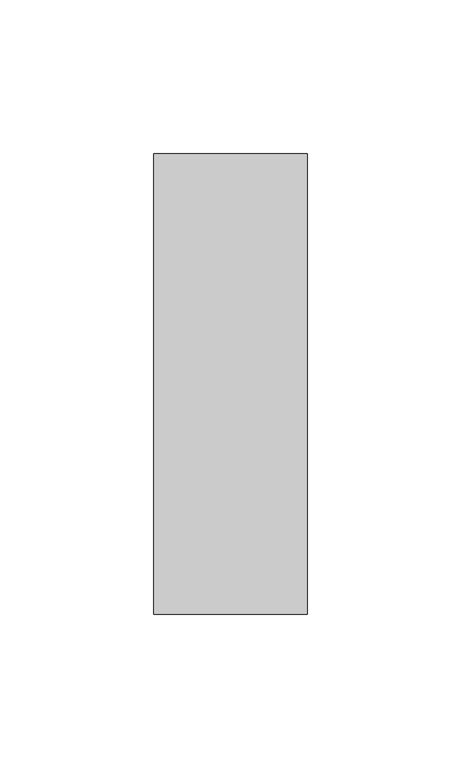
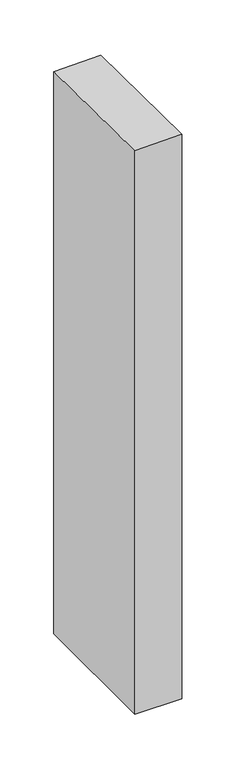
"""IFC4 building model written with IfcOpenShell, lengths in millimetres: member geometry, Прямоугольный импост : 50 x 150 мм."""

import ifcopenshell
import ifcopenshell.guid

model = None  # the IFC model being written
_history = None  # IfcOwnerHistory: only IFC2X3 demands one
_inside = {}  # id of a spatial element -> (the spatial element, [elements in it])
_under = {}  # id of a project, library or spatial element -> (it, [spatial elements below it])
_declared = {}  # id of a project -> (the project, [libraries it declares])
_typed = {}  # id of a type object -> (the type object, [elements of that type])
_made_of = {}  # id of a material, layer set ... -> (it, [elements and type objects made of it])


def new_model(schema):
    """Start an empty IFC model of exactly this schema.

    Asked for "IFC4X3", IfcOpenShell would pick the latest addendum, in which some entities
    have other attributes; the version numbers below select the first issue.
    IFC2X3 requires an IfcOwnerHistory on every rooted entity: one is made here for all.
    """
    global model, _history
    if schema == "IFC4X3":
        model = ifcopenshell.file(schema_version=(4, 3, 0, 0))
    else:
        model = ifcopenshell.file(schema=schema)
    _inside.clear()
    _under.clear()
    _declared.clear()
    _typed.clear()
    _made_of.clear()
    _history = None
    if model.schema == "IFC2X3":
        org = make("IfcOrganization", Name="unknown")
        user = make(
            "IfcPersonAndOrganization",
            ThePerson=make("IfcPerson", FamilyName="unknown"),
            TheOrganization=org,
        )
        app = make(
            "IfcApplication",
            ApplicationDeveloper=org,
            Version="unknown",
            ApplicationFullName="unknown",
            ApplicationIdentifier="unknown",
        )
        _history = make(
            "IfcOwnerHistory",
            OwningUser=user,
            OwningApplication=app,
            ChangeAction="ADDED",
            CreationDate=0,
        )
    return model


def make(cls, **values):
    """One entity of the class cls with the attributes given. An attribute that is None is left unset."""
    return model.create_entity(
        cls, **{name: value for name, value in values.items() if value is not None}
    )


def rooted(cls, **values):
    """An entity with a GlobalId (a new one), such as an element, a storey or a relation."""
    return make(cls, GlobalId=ifcopenshell.guid.new(), OwnerHistory=_history, **values)


def si_unit(unit_type, name, prefix=None):
    """IfcSIUnit, for example si_unit("LENGTHUNIT", "METRE", prefix="MILLI")."""
    return make("IfcSIUnit", UnitType=unit_type, Prefix=prefix, Name=name)


def assignment(units):
    """IfcUnitAssignment: the units of a project."""
    return None if units is None else make("IfcUnitAssignment", Units=units)


def point(xyz):
    """IfcCartesianPoint."""
    return None if xyz is None else make("IfcCartesianPoint", Coordinates=xyz)


def direction(xyz):
    """IfcDirection."""
    return None if xyz is None else make("IfcDirection", DirectionRatios=xyz)


def frame(location, z_axis=None, x_axis=None):
    """IfcAxis2Placement3D, a coordinate frame: its origin and axes. An axis left out is left unset."""
    return make(
        "IfcAxis2Placement3D",
        Location=point(location),
        Axis=direction(z_axis),
        RefDirection=direction(x_axis),
    )


def origin():
    """The frame at (0, 0, 0) with its axes left unset."""
    return frame((0.0, 0.0, 0.0))


def place(relative_to, where):
    """IfcLocalPlacement: puts the frame where relative to a parent placement (None: the world)."""
    return make(
        "IfcLocalPlacement", PlacementRelTo=relative_to, RelativePlacement=where
    )


def context(
    kind, dimensions, precision=None, world=None, true_north=None, identifier=None
):
    """IfcGeometricRepresentationContext, for example the 3D "Model" context."""
    return make(
        "IfcGeometricRepresentationContext",
        ContextIdentifier=identifier,
        ContextType=kind,
        CoordinateSpaceDimension=dimensions,
        Precision=precision,
        WorldCoordinateSystem=world,
        TrueNorth=true_north,
    )


def project(units=None, contexts=None):
    """IfcProject with its units and contexts."""
    return rooted(
        "IfcProject",
        Name="project",
        RepresentationContexts=contexts,
        UnitsInContext=assignment(units),
    )


def spatial(cls, under=None, at=None, **own):
    """A site, building, storey or space (cls), placed at a placement, below another one or the project."""
    s = rooted(cls, ObjectPlacement=at, **own)
    if under is not None:
        _under.setdefault(under.id(), (under, []))[1].append(s)
    return s


def faces_of(points, faces, orient=None, outer=None):
    """IfcFace entities. A face is a list of loops; a loop is a list of indices into points, from 0.

    orient and outer hold one flag for each loop. By default every Orientation is true, the
    first loop of a face is its IfcFaceOuterBound and the others are IfcFaceBound.
    """
    made = []
    for i, loops in enumerate(faces):
        bounds = []
        for j, loop in enumerate(loops):
            is_outer = j == 0 if outer is None else outer[i][j]
            bounds.append(
                make(
                    "IfcFaceOuterBound" if is_outer else "IfcFaceBound",
                    Bound=make("IfcPolyLoop", Polygon=[points[k] for k in loop]),
                    Orientation=True if orient is None else orient[i][j],
                )
            )
        made.append(make("IfcFace", Bounds=bounds))
    return made


def faceted_brep(points, faces, orient=None, outer=None, voids=None):
    """IfcFacetedBrep: a solid bounded by flat faces; with voids (closed shells), ...WithVoids."""
    shared = [point(p) for p in points]
    hull = make("IfcClosedShell", CfsFaces=faces_of(shared, faces, orient, outer))
    if voids is None:
        return make("IfcFacetedBrep", Outer=hull)
    return make(
        "IfcFacetedBrepWithVoids",
        Outer=hull,
        Voids=[
            make(cls, CfsFaces=faces_of(shared, fs, o, b)) for cls, fs, o, b in voids
        ],
    )


def shape(context_of_items, identifier, shape_type, items):
    """IfcShapeRepresentation: the items that make up one representation, for example the "Body"."""
    return make(
        "IfcShapeRepresentation",
        ContextOfItems=context_of_items,
        RepresentationIdentifier=identifier,
        RepresentationType=shape_type,
        Items=items,
    )


def source(mapping_origin, context_of_items, identifier, shape_type, items):
    """IfcRepresentationMap: a shape defined once, which mapped items show again and again."""
    return make(
        "IfcRepresentationMap",
        MappingOrigin=mapping_origin,
        MappedRepresentation=shape(context_of_items, identifier, shape_type, items),
    )


def transform(
    local_origin,
    x_axis=None,
    y_axis=None,
    z_axis=None,
    scale=None,
    scale2=None,
    scale3=None,
    uniform=True,
):
    """IfcCartesianTransformationOperator3D, or its non-uniform kind. x_axis, y_axis, z_axis: its Axis1, 2, 3."""
    if uniform:
        return make(
            "IfcCartesianTransformationOperator3D",
            Axis1=direction(x_axis),
            Axis2=direction(y_axis),
            LocalOrigin=point(local_origin),
            Scale=scale,
            Axis3=direction(z_axis),
        )
    return make(
        "IfcCartesianTransformationOperator3DnonUniform",
        Axis1=direction(x_axis),
        Axis2=direction(y_axis),
        LocalOrigin=point(local_origin),
        Scale=scale,
        Axis3=direction(z_axis),
        Scale2=scale2,
        Scale3=scale3,
    )


def mapped(mapping_source, mapping_target):
    """IfcMappedItem: shows the shape of a source again, moved by a transform."""
    return make(
        "IfcMappedItem", MappingSource=mapping_source, MappingTarget=mapping_target
    )


def made_of(thing, what):
    """Note that an element or type object is made of a material, layer set ...; save() writes the relation."""
    if what is not None:
        _made_of.setdefault(what.id(), (what, []))[1].append(thing)
    return thing


def element(
    cls,
    number,
    at=None,
    inside=None,
    cuts=None,
    type_object=None,
    material=None,
    context=None,
    identifier="Body",
    shape_type=None,
    held_by="IfcProductDefinitionShape",
    body=None,
    shapes=None,
    **own,
):
    """One element of the class cls, such as IfcWall. Its Tag is "e" and its number.

    at: its placement. inside: the storey or other place that contains it. cuts: it is an
    opening in that element (IfcRelVoidsElement). A single representation is given by context,
    identifier, shape_type and body (its items); several are given by shapes. held_by: the class
    of the entity that holds the representations. save() writes the other relations.
    """
    e = rooted(cls, Tag="e%d" % number, ObjectPlacement=at, **own)
    if body is not None:
        shapes = [shape(context, identifier, shape_type, body)]
    if shapes is not None:
        e.Representation = make(held_by, Representations=shapes)
    if inside is not None:
        _inside.setdefault(inside.id(), (inside, []))[1].append(e)
    if cuts is not None:
        rooted(
            "IfcRelVoidsElement", RelatingBuildingElement=cuts, RelatedOpeningElement=e
        )
    if type_object is not None:
        _typed.setdefault(type_object.id(), (type_object, []))[1].append(e)
    return made_of(e, material)


def aggregate(whole, parts):
    """IfcRelAggregates: a whole, such as a stair, and the parts it consists of."""
    return rooted("IfcRelAggregates", RelatingObject=whole, RelatedObjects=parts)


def save(model, path):
    """Write the relations noted so far, then the file.

    IfcRelAggregates (storeys below a building ...), IfcRelContainedInSpatialStructure (elements
    in a storey), IfcRelDefinesByType, IfcRelAssociatesMaterial and IfcRelDeclares: one each for
    every whole, place, type object, material and project.
    """
    for whole, parts in _under.values():
        aggregate(whole, parts)
    for where, things in _inside.values():
        rooted(
            "IfcRelContainedInSpatialStructure",
            RelatedElements=things,
            RelatingStructure=where,
        )
    for kind, things in _typed.values():
        rooted("IfcRelDefinesByType", RelatedObjects=things, RelatingType=kind)
    for what, things in _made_of.values():
        rooted("IfcRelAssociatesMaterial", RelatedObjects=things, RelatingMaterial=what)
    for by, libraries in _declared.values():
        rooted("IfcRelDeclares", RelatingContext=by, RelatedDefinitions=libraries)
    model.write(path)


def member_64c306b0(model_context):
    return source(origin(), model_context, "Body", "Brep", [
        faceted_brep([(25.0, 75.0, -636.3634682), (25.0, -75.0, -636.3634682), (-25.0, -75.0, -636.3634682), (-25.0, 75.0, -636.3634682), (-25.0, 75.0, -1.2954182), (25.0, 75.0, -0.2684665), (-25.0, -75.0, 0.2684665), (25.0, -75.0, 1.2954182)], [[[0, 1, 2, 3]], [[4, 5, 0, 3]], [[6, 4, 3, 2]], [[7, 6, 2, 1]], [[5, 7, 1, 0]], [[5, 4, 6, 7]]]),
    ])


if __name__ == "__main__":
    model = new_model("IFC4")
    model_context = context("Model", 3, world=origin())
    ifc_project = project(units=[si_unit("LENGTHUNIT", "METRE", prefix="MILLI")], contexts=[model_context])
    site = spatial("IfcSite", under=ifc_project)
    building = spatial("IfcBuilding", under=site)
    placement = place(None, origin())
    member_shape = member_64c306b0(model_context)
    element("IfcMember", 1, ObjectType="Прямоугольный импост : 50 x 150 мм", at=placement, inside=building, context=model_context, shape_type="MappedRepresentation", body=[
        mapped(member_shape, transform((0.0, 0.0, 0.0), x_axis=(1.0, 0.0, 0.0), y_axis=(0.0, 1.0, 0.0), z_axis=(0.0, 0.0, 1.0))),
    ])
    save(model, "model.ifc")
